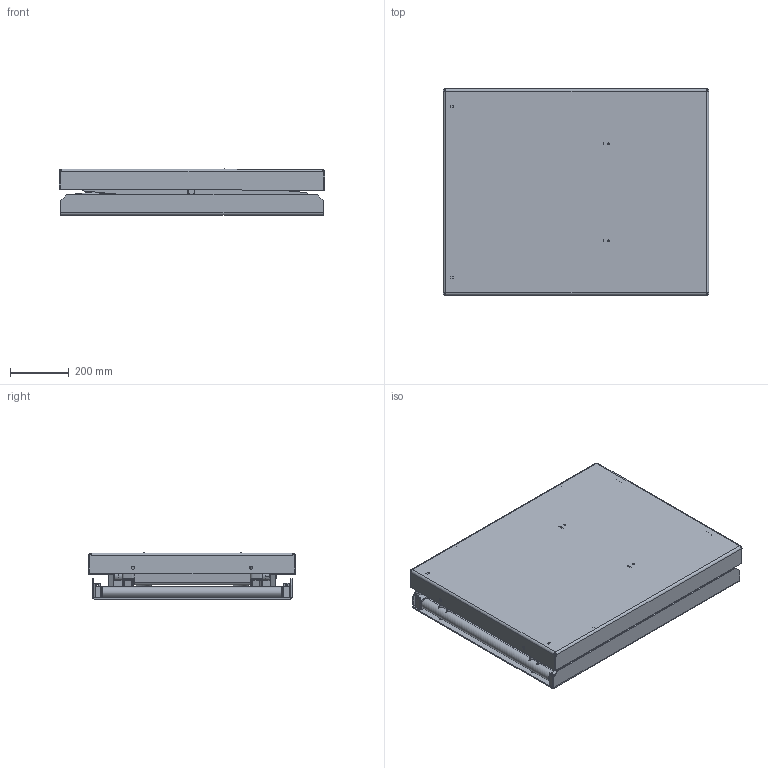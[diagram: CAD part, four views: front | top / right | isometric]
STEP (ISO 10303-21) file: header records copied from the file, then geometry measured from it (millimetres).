
FILE_DESCRIPTION(/* description */ ('CR 1000'),/* implementation_level */ '2;1');
FILE_NAME(/* name */ '\\EDMOFILE01\Users$\JOAED\Desktop\33930-Collapsed.stp',/* time_stamp */ '2017-04-11T12:16:55+02:00',/* author */ ('joaed'),/* organization */ (''),/* preprocessor_version */ 'ST-DEVELOPER v16.5',/* originating_system */ 'Autodesk Inventor 2017',/* authorisation */ '');
FILE_SCHEMA (('AUTOMOTIVE_DESIGN { 1 0 10303 214 3 1 1 }'));
Length unit declared in the file: millimetre
Products named in the file (42): 33930; 33931; 33932; 44263; 42288; 43342C; 83208; 33934; 44265; 82170 - 860; 44266; 44267; 80020 - 394,5; 33000; 82727; 44268; 44269; 44270; 44271; 44272; 82269; 44273; 33933; 515261; 44264; 609845; 45362; 84896; 70015; 42285; 34409; 34409_1; 44059; 34408; 44485; 44484; 44058; 43814; 85375; 600226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
Assembly tree (79 placements, depth 4):
  33930
    33931
      33932
      44263  x2
      42288  x2
      43342C  x2
      83208  x2
    42285  x6
    33934
      44265  x2
        82170 - 860
      44266  x2
      44267
        80020 - 394,5
      33000  x4
      82727  x4
      44268  x2
      44269
      44270  x2
      44271
      44272  x2
      82269  x2
      44273
    33933
      515261
      44264  x2
      609845  x2
      45362  x2
      84896  x4
    70015  x2
    34409
      44059
      34408
        44485
        44484
      44058
      43814
      85375
      600226  x2
      600227
      600228
    34409_1
      44059
      34408
        44485
        44484
      44058
      43814
      85375
      600226  x2
      600227
      600228
Bounding box: 900.07 x 700 x 156.83 mm (x, y, z)
Volume: 13488102.2 mm3; surface area: 5454009 mm2
Topology: 72 solids, 72 shells, 1282 faces, 3052 edges, 1954 vertices
Faces by surface type: plane 724, cylinder 408, cone 112, torus 30, bspline 4, sphere 4
Full cylindrical faces by diameter (mm): 5 x6, 5.4 x2, 6 x2, 6.5 x4, 6.8 x6, 7.4 x4, 8 x4, 8.566 x2, 10 x6, 10.3 x4, 10.5 x10, 11 x4, 11.63 x4, 14.63 x2, 16.2 x2, 20 x13, 20.2 x2, 21 x4, 25 x3, 25.2 x2, 28 x4, 28.2 x2, 34 x2, 34.2 x4, 35 x4, 40 x4, 40.6 x2, 42 x4, 44 x6, 45 x6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
Entity records: 23481 total; most frequent: CARTESIAN_POINT 4518, DIRECTION 3911, ORIENTED_EDGE 3408, EDGE_CURVE 1704, AXIS2_PLACEMENT_3D 1423, VERTEX_POINT 1158, LINE 1065, VECTOR 1065
